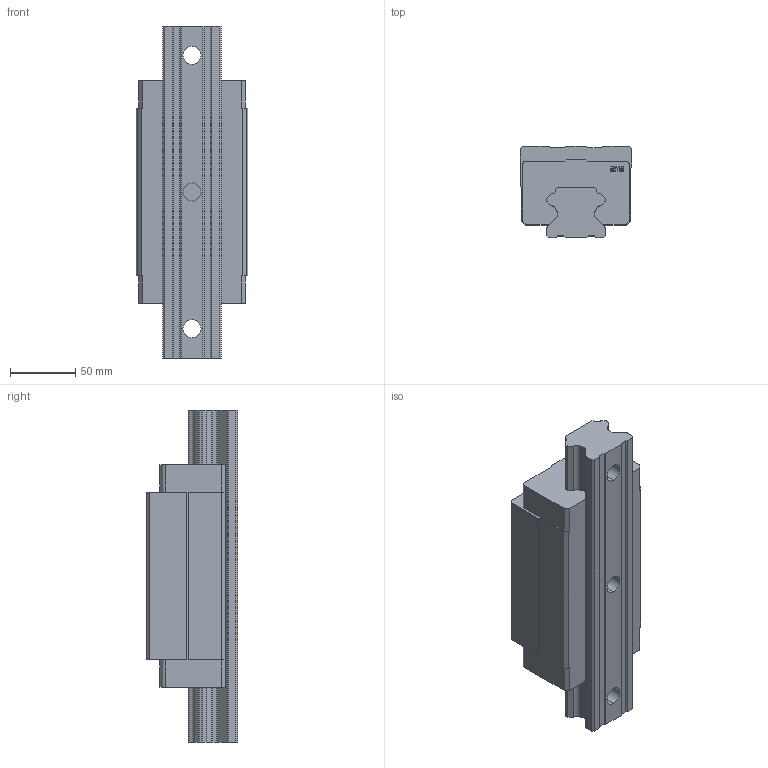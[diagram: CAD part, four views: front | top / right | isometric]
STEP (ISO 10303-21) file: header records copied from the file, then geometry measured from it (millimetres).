
FILE_DESCRIPTION (( 'STEP AP214' ), '1' );
FILE_NAME ('7.1028 Lineaarikelkka HTH45HA.STEP', '2026-03-11T06:59:54', ( '' ), ( '' ), 'SwSTEP 2.0', 'SolidWorks 2025', '' );
FILE_SCHEMA (( 'AUTOMOTIVE_DESIGN' ));
Length unit declared in the file: millimetre
Products named in the file (3): 7.1028 Lineaarikelkka HTH45HA; HTR45; HTH45
Assembly tree (2 placements, depth 2):
  7.1028 Lineaarikelkka HTH45HA
    HTH45
    HTR45
Bounding box: 86 x 70 x 255 mm (x, y, z)
Volume: 985087.1 mm3; surface area: 121044.8 mm2
Topology: 2 solids, 2 shells, 239 faces, 651 edges, 434 vertices
Faces by surface type: plane 168, cylinder 50, bspline 21
Entity records: 11778 total; most frequent: CARTESIAN_POINT 3018, ORIENTED_EDGE 1302, DIRECTION 1155, EDGE_CURVE 651, LINE 509, VECTOR 509, VERTEX_POINT 434, AXIS2_PLACEMENT_3D 323
